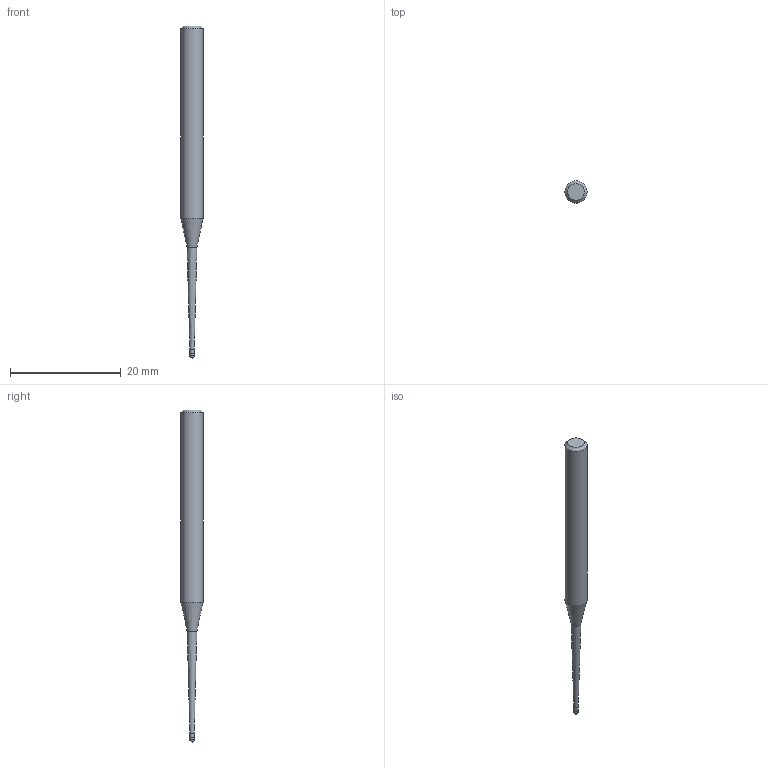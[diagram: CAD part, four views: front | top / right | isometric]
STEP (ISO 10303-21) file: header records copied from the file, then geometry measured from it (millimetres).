
FILE_DESCRIPTION((''),'2;1');
FILE_NAME('C:\Users\nsx150\AppData\Local\Temp\Mastercam 2021\SNAKH10GOD\TEMP.step','2021-10-21T13:31:57',(''),(''),'STEP Write','Mastercam 2021 ... CNC Software, Inc.','');
FILE_SCHEMA(('AUTOMOTIVE_DESIGN'));
Length unit declared in the file: millimetre
Products named in the file (1): None
Bounding box: 4 x 4 x 60 mm (x, y, z)
Volume: 496.3 mm3; surface area: 572.3 mm2
Topology: 2 solids, 2 shells, 10 faces, 16 edges, 9 vertices
Faces by surface type: plane 3, cylinder 3, cone 3, sphere 1
Full cylindrical faces by diameter (mm): 0.785 x1, 0.8 x1, 4 x1
Entity records: 232 total; most frequent: DIRECTION 40, CARTESIAN_POINT 28, AXIS2_PLACEMENT_3D 20, ORIENTED_EDGE 16, EDGE_LOOP 16, STYLED_ITEM 13, ADVANCED_FACE 10, FACE_BOUND 9
